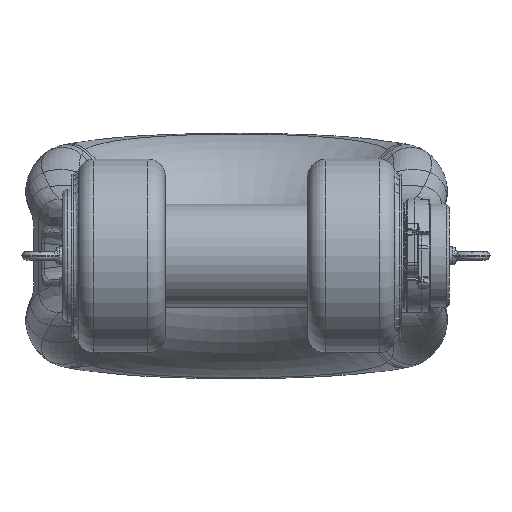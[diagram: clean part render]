
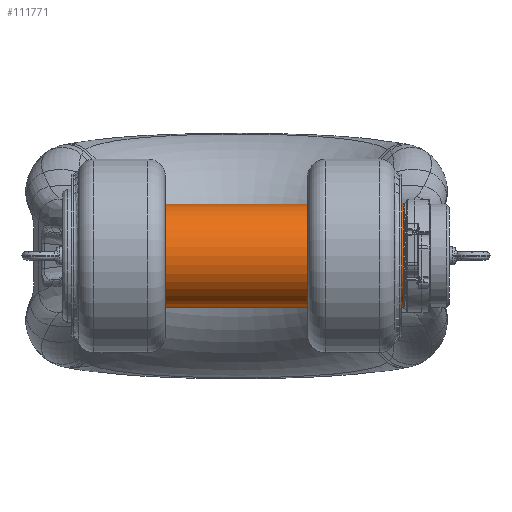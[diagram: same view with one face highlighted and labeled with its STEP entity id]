
A CAD part, front view. The second image highlights one B-rep face of the part: STEP entity #111771.
In plain terms, the highlighted cylindrical face has radius 100 mm (diameter 200 mm), a partial arc.
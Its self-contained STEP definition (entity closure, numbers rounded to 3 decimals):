
#104017=CARTESIAN_POINT('',(6.,0.,0.));
#104018=DIRECTION('',(1.,0.,0.));
#104019=DIRECTION('',(0.,0.,1.));
#104020=AXIS2_PLACEMENT_3D('',#104017,#104018,#104019);
#104025=CARTESIAN_POINT('',(621.,0.,0.));
#104026=DIRECTION('',(-1.,0.,0.));
#104027=DIRECTION('',(0.,0.,-1.));
#104028=AXIS2_PLACEMENT_3D('',#104025,#104026,#104027);
#104033=DIRECTION('',(1.,0.,0.));
#104034=VECTOR('',#104033,615.);
#104035=CARTESIAN_POINT('',(6.,0.,-100.));
#104036=LINE('',#104035,#104034);
#104079=DIRECTION('',(1.,0.,0.));
#104080=VECTOR('',#104079,615.);
#104081=CARTESIAN_POINT('',(6.,0.,100.));
#104082=LINE('',#104081,#104080);
#104369=CARTESIAN_POINT('',(621.,0.,-100.));
#104370=CARTESIAN_POINT('',(621.,0.,100.));
#104371=VERTEX_POINT('',#104369);
#104372=VERTEX_POINT('',#104370);
#104395=CARTESIAN_POINT('',(6.,0.,100.));
#104396=CARTESIAN_POINT('',(6.,0.,-100.));
#104397=VERTEX_POINT('',#104395);
#104398=VERTEX_POINT('',#104396);
#111757=CARTESIAN_POINT('',(-39.,0.,0.));
#111758=DIRECTION('',(-1.,0.,0.));
#111759=DIRECTION('',(0.,0.,1.));
#111760=AXIS2_PLACEMENT_3D('',#111757,#111758,#111759);
#111761=CYLINDRICAL_SURFACE('',#111760,100.);
#111762=ORIENTED_EDGE('',*,*,#111744,.F.);
#111764=ORIENTED_EDGE('',*,*,#111763,.T.);
#111766=ORIENTED_EDGE('',*,*,#111765,.F.);
#111768=ORIENTED_EDGE('',*,*,#111767,.F.);
#111769=EDGE_LOOP('',(#111762,#111764,#111766,#111768));
#111770=FACE_OUTER_BOUND('',#111769,.F.);
#111771=ADVANCED_FACE('',(#111770),#111761,.T.);
#104021=CIRCLE('',#104020,100.);
#104029=CIRCLE('',#104028,100.);
#111744=EDGE_CURVE('',#104397,#104398,#104021,.T.);
#111763=EDGE_CURVE('',#104397,#104372,#104082,.T.);
#111765=EDGE_CURVE('',#104371,#104372,#104029,.T.);
#111767=EDGE_CURVE('',#104398,#104371,#104036,.T.);
